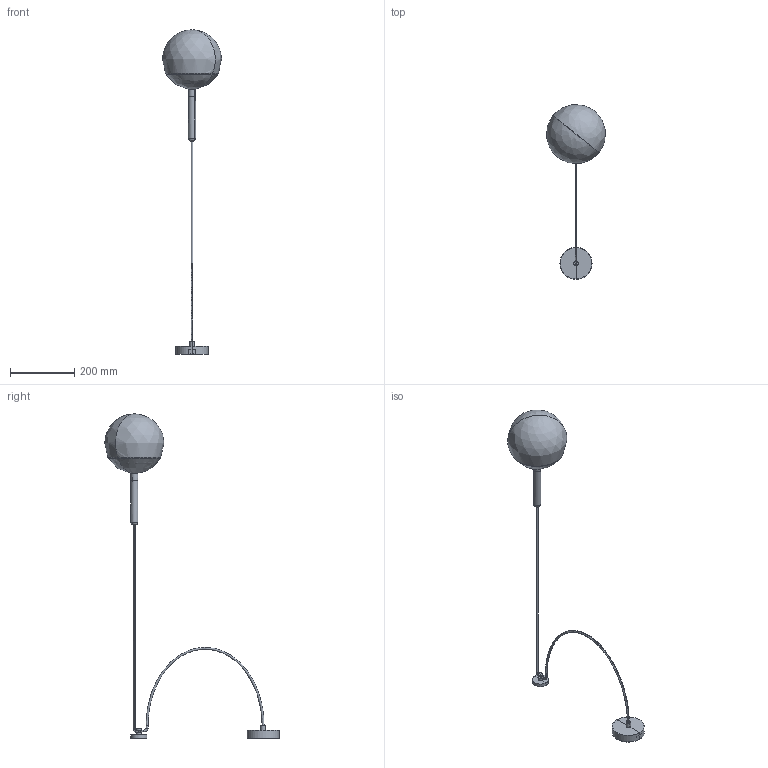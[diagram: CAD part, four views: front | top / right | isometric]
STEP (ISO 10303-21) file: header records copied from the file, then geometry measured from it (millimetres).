
FILE_DESCRIPTION(/* description */ (''),/* implementation_level */ '2;1');
FILE_NAME(/* name */ 'C:\Users\Franco Sartori E\Documents\FARO\DUPLICADO\Modelos\01_Digitalizados\00_MINE\03_Publicación\28375.stp',/* time_stamp */ '2021-03-22T11:28:54+01:00',/* author */ ('Franco Sartori E'),/* organization */ (''),/* preprocessor_version */ 'ST-DEVELOPER v18.1',/* originating_system */ 'AutoCAD Mechanical',/* authorisation */ '');
FILE_SCHEMA (('AUTOMOTIVE_DESIGN { 1 0 10303 214 3 1 1 }'));
Length unit declared in the file: millimetre
Products named in the file (3): Product; CS - CS-470161-_3D_; MINE - LAMP-470162-_3D_
Assembly tree (2 placements, depth 2):
  Product
    CS - CS-470161-_3D_
    MINE - LAMP-470162-_3D_
Bounding box: 183.93 x 542 x 1007.9 mm (x, y, z)
Volume: 593338.1 mm3; surface area: 349096.3 mm2
Topology: 10 solids, 10 shells, 170 faces, 362 edges, 200 vertices
Faces by surface type: plane 78, cylinder 62, bspline 16, torus 14
Entity records: 10345 total; most frequent: CARTESIAN_POINT 6785, DIRECTION 718, ORIENTED_EDGE 716, EDGE_CURVE 358, AXIS2_PLACEMENT_3D 282, VERTEX_POINT 200, FACE_OUTER_BOUND 170, EDGE_LOOP 170
